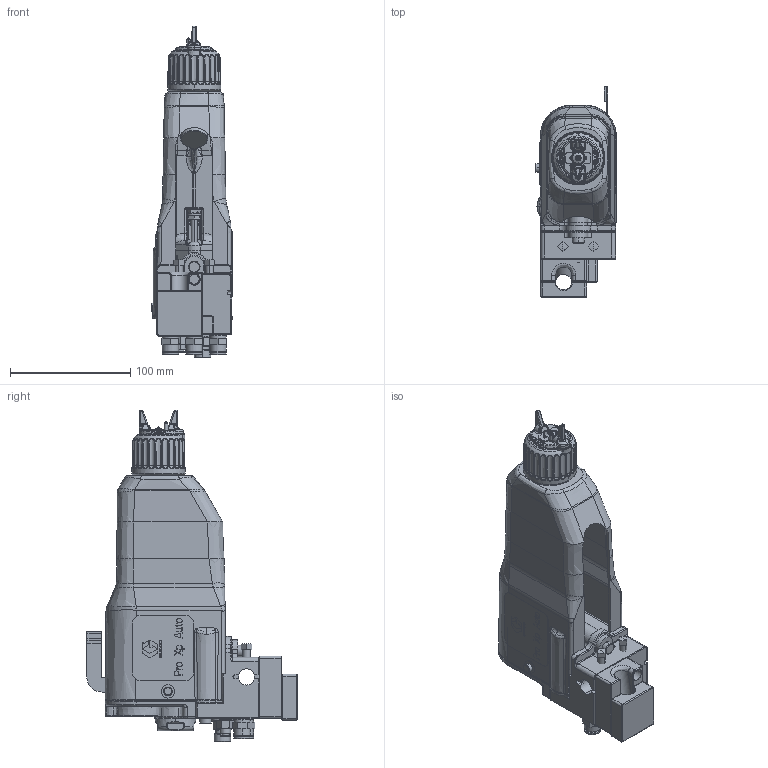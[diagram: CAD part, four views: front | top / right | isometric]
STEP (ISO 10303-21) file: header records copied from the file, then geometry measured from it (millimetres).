
FILE_DESCRIPTION((''),'2;1');
FILE_NAME('HA1M18-EN-K_PRT','2020-01-01T12:06:11',('qusrh3'),(''),'CREO PARAMETRIC BY PTC INC, 2019030','CREO PARAMETRIC BY PTC INC, 2019030','');
FILE_SCHEMA(('CONFIG_CONTROL_DESIGN'));
Products named in the file (1): HA1M18-EN-K_PRT
Bounding box: 67.94 x 174.88 x 275.71 mm (x, y, z)
Surface area: 205349 mm2 (no closed solid volume)
Topology: 0 solids, 120 shells, 2418 faces, 6977 edges, 4587 vertices
Faces by surface type: bspline 862, plane 778, cylinder 440, cone 143, torus 113, sphere 52, extrusion 30
Entity records: 131076 total; most frequent: CARTESIAN_POINT 75527, ORIENTED_EDGE 12002, DIRECTION 9621, EDGE_CURVE 6968, VERTEX_POINT 4587, AXIS2_PLACEMENT_3D 3262, VECTOR 3097, LINE 3067
